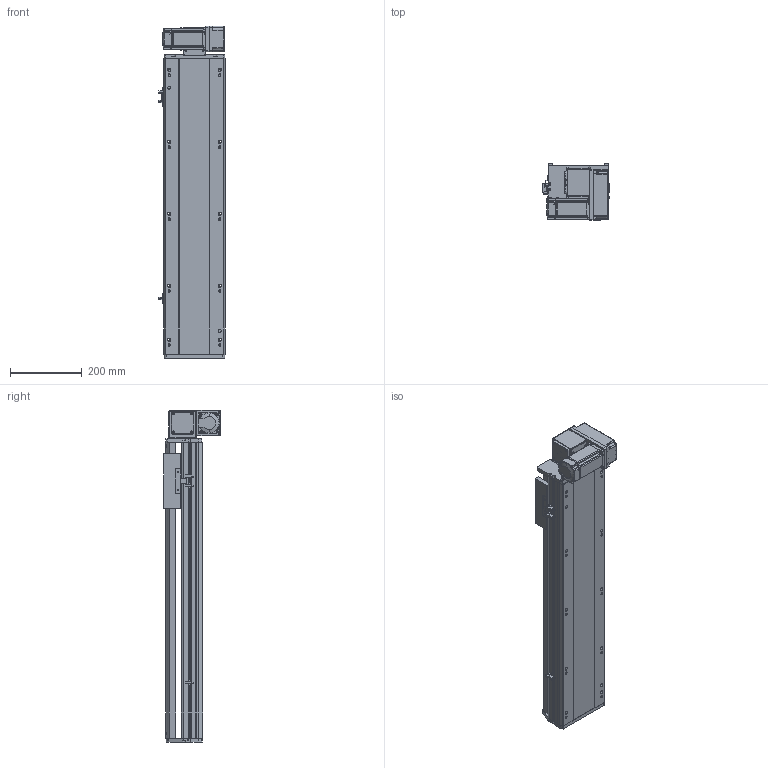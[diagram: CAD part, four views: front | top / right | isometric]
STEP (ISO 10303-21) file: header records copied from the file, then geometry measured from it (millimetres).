
FILE_DESCRIPTION (( 'STEP AP214' ), '1' );
FILE_NAME ('RTB17S-XX-550-RM-M40-C4.STEP', '2025-12-11T08:12:01', ( '' ), ( '' ), 'SwSTEP 2.0', 'SolidWorks 2018', '' );
FILE_SCHEMA (( 'AUTOMOTIVE_DESIGN' ));
Length unit declared in the file: millimetre
Products named in the file (14): RTB14-L-008-M20--萇儂啣^RTB17S-RM-々湍釱蚾饜-400W_RTB17S-XX-XX-RM-M40-C4; RTB14-L-017P^RTB17S-RM-々湍釱蚾饜-400W_RTB17S-XX-XX-RM-M40-C4; 400W侜督萇儂^RTB17S-XX-XX-RM-M40-C4; RTB17S-L-014-T20--々湍釱^RTB17S-RM-々湍釱蚾饜-400W_RTB17S-XX-XX-RM-M40-C4; RTB17S-RM-々湍釱蚾饜-400W^RTB17S-XX-XX-RM-M40-C4; RTB17S-L-004佪裝蹟譫蟀諉釱^RTB17S-XX-XX-RM-M40-C4; RTB17S-XX-550-RM-M40-C4; RTB17-R-011菁釱^RTB17S-XX-XX-RM-M40-C4; OMRON EE-SX672 传感器^RTB17S-XX-XX-RM-M40-C4; RTB14-L-018P^RTB17S-RM-々湍釱蚾饜-400W_RTB17S-XX-XX-RM-M40-C4; RTH13-BL-012覜茼え俋离^RTB17S-XX-XX-RM-M40-C4; RTB14-L-005P--轴承塑胶压盖^RTB17S-RM-皮带座装配-400W_RTB17S-XX-XX-RM-M40-C4; RTB17S-L-001耜醱啣^RTB17S-XX-XX-RM-M40-C4; RTB17S-L-007奻裔^RTB17S-XX-XX-RM-M40-C4
Assembly tree (16 placements, depth 3):
  RTB17S-XX-550-RM-M40-C4
    RTB17-R-011菁釱^RTB17S-XX-XX-RM-M40-C4
    RTB17S-L-007奻裔^RTB17S-XX-XX-RM-M40-C4
    OMRON EE-SX672 传感器^RTB17S-XX-XX-RM-M40-C4  x3
    RTB17S-L-001耜醱啣^RTB17S-XX-XX-RM-M40-C4
    400W侜督萇儂^RTB17S-XX-XX-RM-M40-C4
    RTB17S-L-004佪裝蹟譫蟀諉釱^RTB17S-XX-XX-RM-M40-C4
    RTH13-BL-012覜茼え俋离^RTB17S-XX-XX-RM-M40-C4
    RTB17S-RM-々湍釱蚾饜-400W^RTB17S-XX-XX-RM-M40-C4
      RTB17S-L-014-T20--々湍釱^RTB17S-RM-々湍釱蚾饜-400W_RTB17S-XX-XX-RM-M40-C4
      RTB14-L-005P--轴承塑胶压盖^RTB17S-RM-皮带座装配-400W_RTB17S-XX-XX-RM-M40-C4
      RTB14-L-008-M20--萇儂啣^RTB17S-RM-々湍釱蚾饜-400W_RTB17S-XX-XX-RM-M40-C4
      RTB14-L-017P^RTB17S-RM-々湍釱蚾饜-400W_RTB17S-XX-XX-RM-M40-C4  x2
      RTB14-L-018P^RTB17S-RM-々湍釱蚾饜-400W_RTB17S-XX-XX-RM-M40-C4
Bounding box: 183.5 x 156.5 x 922.5 mm (x, y, z)
Volume: 8704659.7 mm3; surface area: 1097883.7 mm2
Topology: 15 solids, 15 shells, 2173 faces, 5979 edges, 3897 vertices
Faces by surface type: plane 1064, cylinder 661, bspline 301, cone 139, torus 8
Entity records: 61097 total; most frequent: CARTESIAN_POINT 16984, ORIENTED_EDGE 8802, DIRECTION 8216, EDGE_CURVE 4401, VERTEX_POINT 2885, AXIS2_PLACEMENT_3D 2815, VECTOR 2586, LINE 2586
